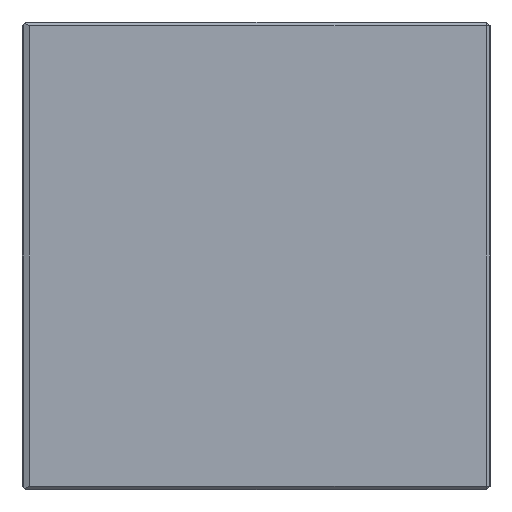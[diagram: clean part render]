
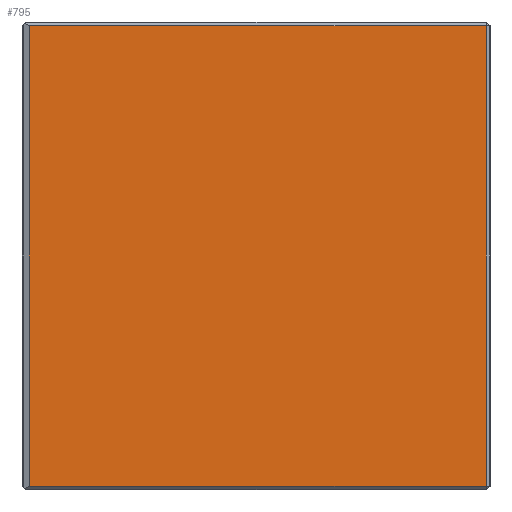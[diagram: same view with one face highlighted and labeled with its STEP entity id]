
A CAD part, left-side view. The second image highlights one B-rep face of the part: STEP entity #795.
In plain terms, the highlighted planar face has unit normal (-1, 0, 0).
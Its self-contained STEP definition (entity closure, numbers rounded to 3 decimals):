
#232=CARTESIAN_POINT('',(0.,0.1,12.55));
#233=VERTEX_POINT('',#232);
#434=CARTESIAN_POINT('',(0.,0.1,0.1));
#435=VERTEX_POINT('',#434);
#468=CARTESIAN_POINT('',(0.,12.45,12.55));
#469=VERTEX_POINT('',#468);
#476=CARTESIAN_POINT('',(0.,67.575,12.55));
#477=DIRECTION('',(-0.,-1.,0.));
#478=VECTOR('',#477,123.5);
#479=LINE('',#476,#478);
#480=EDGE_CURVE('',#469,#233,#479,.T.);
#529=CARTESIAN_POINT('',(0.,12.45,0.1));
#530=VERTEX_POINT('',#529);
#537=CARTESIAN_POINT('',(0.,12.45,1.));
#538=DIRECTION('',(0.,0.,1.));
#539=VECTOR('',#538,124.5);
#540=LINE('',#537,#539);
#541=EDGE_CURVE('',#530,#469,#540,.T.);
#567=CARTESIAN_POINT('',(-0.,-55.925,0.1));
#568=DIRECTION('',(0.,1.,0.));
#569=VECTOR('',#568,123.5);
#570=LINE('',#567,#569);
#571=EDGE_CURVE('',#435,#530,#570,.T.);
#605=CARTESIAN_POINT('',(0.,0.1,125.5));
#606=DIRECTION('',(0.,0.,-1.));
#607=VECTOR('',#606,124.5);
#608=LINE('',#605,#607);
#609=EDGE_CURVE('',#233,#435,#608,.T.);
#784=CARTESIAN_POINT('',(0.,6.325,0.));
#785=DIRECTION('',(-1.,0.,0.));
#786=DIRECTION('',(-0.,-1.,0.));
#787=AXIS2_PLACEMENT_3D('',#784,#785,#786);
#788=PLANE('',#787);
#789=ORIENTED_EDGE('',*,*,#480,.F.);
#790=ORIENTED_EDGE('',*,*,#541,.F.);
#791=ORIENTED_EDGE('',*,*,#571,.F.);
#792=ORIENTED_EDGE('',*,*,#609,.F.);
#793=EDGE_LOOP('',(#789,#790,#791,#792));
#794=FACE_BOUND('',#793,.T.);
#795=ADVANCED_FACE('',(#794),#788,.T.);
